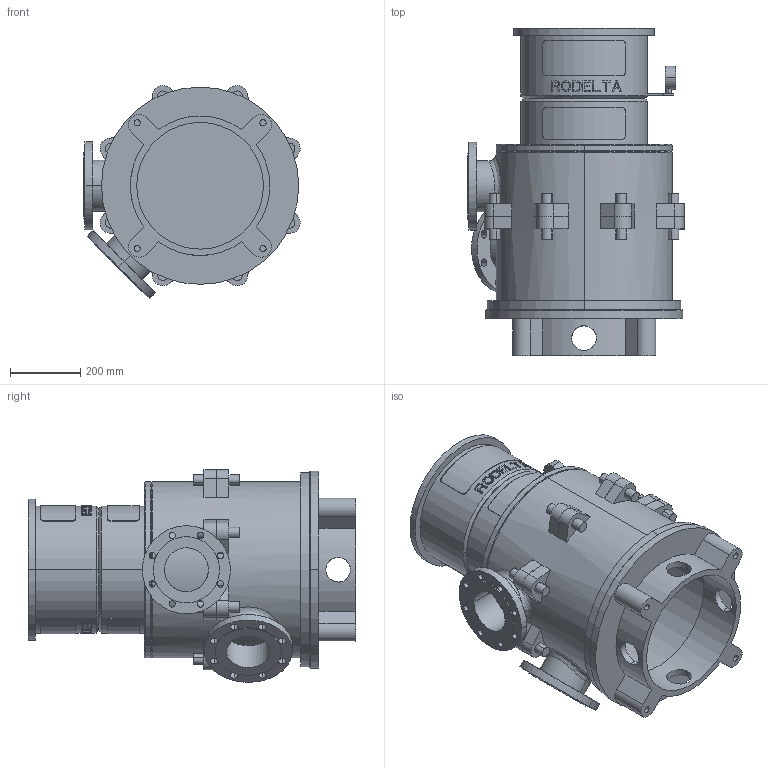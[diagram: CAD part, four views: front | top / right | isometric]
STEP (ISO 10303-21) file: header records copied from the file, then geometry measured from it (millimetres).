
FILE_DESCRIPTION((''),'2;1');
FILE_NAME('LS5_1TR_0GR_TOT_30KW','2023-08-08T',('Lyritlocal'),(''),'PRO/ENGINEER BY PARAMETRIC TECHNOLOGY CORPORATION, 2016360','PRO/ENGINEER BY PARAMETRIC TECHNOLOGY CORPORATION, 2016360','');
FILE_SCHEMA(('CONFIG_CONTROL_DESIGN'));
Length unit declared in the file: millimetre
Products named in the file (1): LS5_1TR_0GR_TOT_30KW
Bounding box: 614.04 x 930 x 603.65 mm (x, y, z)
Volume: 29690302.1 mm3; surface area: 3959001.2 mm2
Topology: 3 solids, 7 shells, 672 faces, 1747 edges, 1158 vertices
Faces by surface type: plane 414, cylinder 242, cone 12, bspline 4
Entity records: 22020 total; most frequent: CARTESIAN_POINT 5576, ORIENTED_EDGE 3478, DIRECTION 3269, EDGE_CURVE 1747, AXIS2_PLACEMENT_3D 1241, VERTEX_POINT 1158, EDGE_LOOP 809, VECTOR 787
